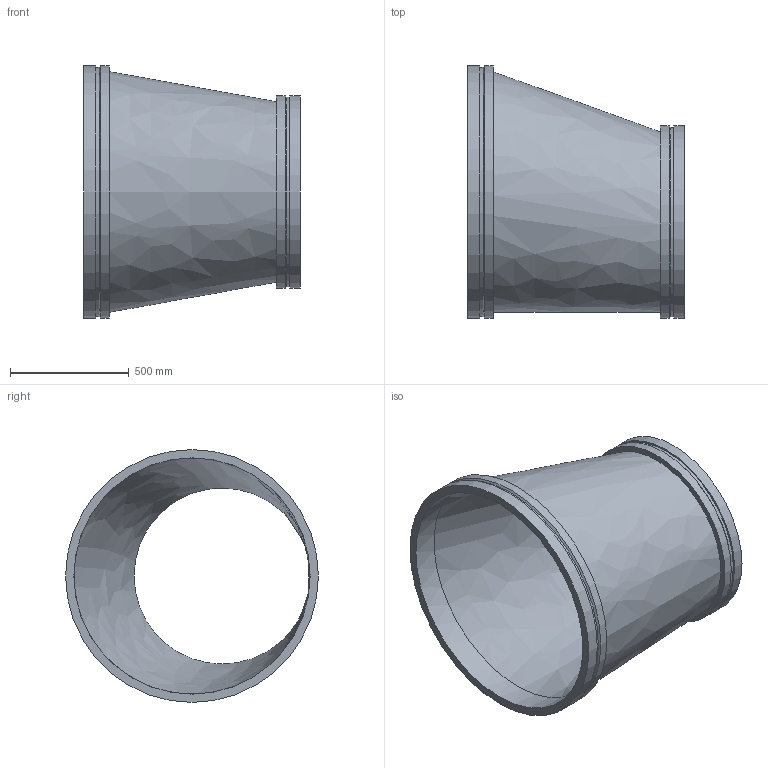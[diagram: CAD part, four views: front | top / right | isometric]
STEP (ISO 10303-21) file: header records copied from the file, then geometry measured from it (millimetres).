
FILE_DESCRIPTION(/* description */ ('VIC REDUCER ECCENTRIC No W51-VR','CAx-IF Rec.Pracs.---Representation and Presentation of Product Manufacturing Information (PMI)---4.0---2014-10-13'),/* implementation_level */ '2;1');
FILE_NAME(/* name */ 'C:\Users\kkamble\AppData\Roaming\Autodesk\ApplicationPlugins\Back Up\Victaulic_Vic-Ring_Reducer Eccentric_No W51 VR (AGR)\Victaulic_Vic-Ring_Reducer Eccentric_No W51 VR (AGR)_40.0x30.0 (1000x750).stp',/* time_stamp */ '2020-09-10T11:50:53+05:00',/* author */ ('CONSTRUCTION PIPING SERVICES'),/* organization */ ('Victaulic'),/* preprocessor_version */ 'ST-DEVELOPER v17.2',/* originating_system */ 'Autodesk Inventor 2019',/* authorisation */ '');
FILE_SCHEMA (('AP242_MANAGED_MODEL_BASED_3D_ENGINEERING_MIM_LF { 1 0 10303 442 1 1 4 }'));
Length unit declared in the file: inch
Products named in the file (1): W51 VR-40.0x30.0
Bounding box: 914.4 x 1066.8 x 1066.8 mm (x, y, z)
Volume: 38640928.8 mm3; surface area: 5592521.2 mm2
Topology: 1 solids, 1 shells, 18 faces, 49 edges, 37 vertices
Faces by surface type: cylinder 8, plane 6, cone 2, bspline 2
Full cylindrical faces by diameter (mm): 742.95 x1, 798.322 x1, 812.8 x2, 996.95 x1, 1050.925 x1, 1066.8 x2
Entity records: 792 total; most frequent: CARTESIAN_POINT 158, DIRECTION 144, ORIENTED_EDGE 98, AXIS2_PLACEMENT_3D 67, EDGE_CURVE 49, CIRCLE 37, VERTEX_POINT 37, EDGE_LOOP 24
